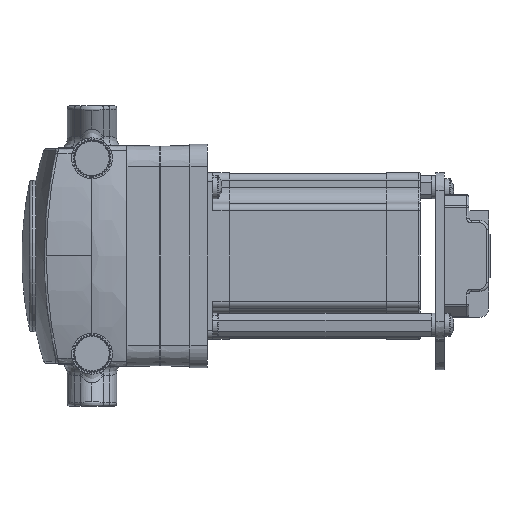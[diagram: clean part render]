
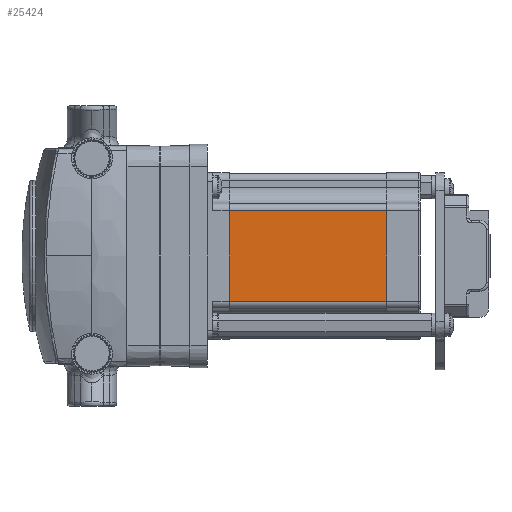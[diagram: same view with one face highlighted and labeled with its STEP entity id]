
A CAD part, front view. The second image highlights one B-rep face of the part: STEP entity #25424.
In plain terms, the highlighted planar face has unit normal (0, -1, 0).
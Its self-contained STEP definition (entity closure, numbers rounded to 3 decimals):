
#458 = DIRECTION ( 'NONE',  ( 0., 0., 1. ) ) ;
#2049 = ORIENTED_EDGE ( 'NONE', *, *, #30009, .F. ) ;
#2251 = EDGE_CURVE ( 'NONE', #11284, #31446, #36628, .T. ) ;
#2794 = FACE_OUTER_BOUND ( 'NONE', #51790, .T. ) ;
#3536 = LINE ( 'NONE', #28622, #25234 ) ;
#7385 = AXIS2_PLACEMENT_3D ( 'NONE', #51768, #26396, #458 ) ;
#8954 = DIRECTION ( 'NONE',  ( 1., 0., 0. ) ) ;
#9548 = CARTESIAN_POINT ( 'NONE',  ( -44.01, -28.3, 15.57 ) ) ;
#11284 = VERTEX_POINT ( 'NONE', #46313 ) ;
#11421 = ORIENTED_EDGE ( 'NONE', *, *, #20032, .T. ) ;
#14381 = DIRECTION ( 'NONE',  ( 0., 0., -1. ) ) ;
#14684 = CARTESIAN_POINT ( 'NONE',  ( 47.1, -28.3, 15.57 ) ) ;
#15807 = VECTOR ( 'NONE', #8954, 1000. ) ;
#20003 = VECTOR ( 'NONE', #39858, 1000. ) ;
#20032 = EDGE_CURVE ( 'NONE', #31446, #21807, #50334, .T. ) ;
#21807 = VERTEX_POINT ( 'NONE', #46896 ) ;
#23451 = EDGE_CURVE ( 'NONE', #52448, #21807, #3536, .T. ) ;
#24465 = DIRECTION ( 'NONE',  ( 0., 0., -1. ) ) ;
#25234 = VECTOR ( 'NONE', #24465, 1000. ) ;
#25424 = ADVANCED_FACE ( 'NONE', ( #2794 ), #34871, .T. ) ;
#26396 = DIRECTION ( 'NONE',  ( 0., -1., 0. ) ) ;
#26455 = CARTESIAN_POINT ( 'NONE',  ( -44.01, -28.3, -15.57 ) ) ;
#28622 = CARTESIAN_POINT ( 'NONE',  ( 101.1, -28.3, 15.57 ) ) ;
#30009 = EDGE_CURVE ( 'NONE', #11284, #52448, #32858, .T. ) ;
#31446 = VERTEX_POINT ( 'NONE', #47855 ) ;
#32838 = CARTESIAN_POINT ( 'NONE',  ( 101.1, -28.3, 15.57 ) ) ;
#32858 = LINE ( 'NONE', #9548, #20003 ) ;
#34871 = PLANE ( 'NONE',  #7385 ) ;
#35301 = VECTOR ( 'NONE', #14381, 1000. ) ;
#36628 = LINE ( 'NONE', #14684, #35301 ) ;
#39858 = DIRECTION ( 'NONE',  ( 1., 0., 0. ) ) ;
#44910 = ORIENTED_EDGE ( 'NONE', *, *, #23451, .F. ) ;
#46313 = CARTESIAN_POINT ( 'NONE',  ( 47.1, -28.3, 15.57 ) ) ;
#46896 = CARTESIAN_POINT ( 'NONE',  ( 101.1, -28.3, -15.57 ) ) ;
#47821 = ORIENTED_EDGE ( 'NONE', *, *, #2251, .T. ) ;
#47855 = CARTESIAN_POINT ( 'NONE',  ( 47.1, -28.3, -15.57 ) ) ;
#50334 = LINE ( 'NONE', #26455, #15807 ) ;
#51768 = CARTESIAN_POINT ( 'NONE',  ( -44.01, -28.3, 15.57 ) ) ;
#51790 = EDGE_LOOP ( 'NONE', ( #47821, #11421, #44910, #2049 ) ) ;
#52448 = VERTEX_POINT ( 'NONE', #32838 ) ;
